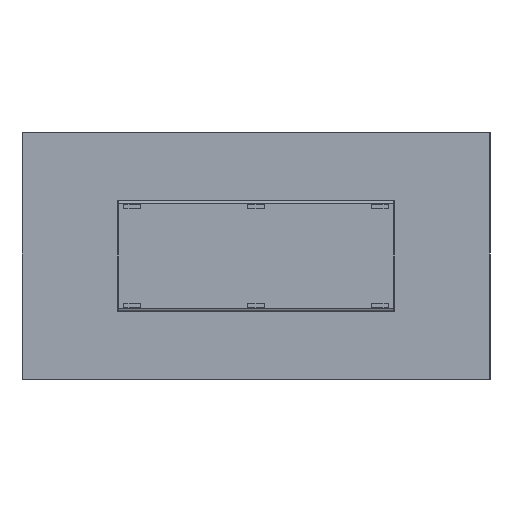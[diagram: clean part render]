
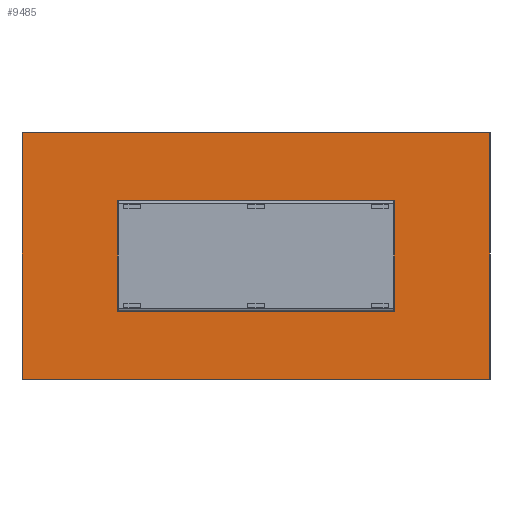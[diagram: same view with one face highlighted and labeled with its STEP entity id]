
A CAD part, front view. The second image highlights one B-rep face of the part: STEP entity #9485.
In plain terms, the highlighted planar face has unit normal (0, -1, 0).
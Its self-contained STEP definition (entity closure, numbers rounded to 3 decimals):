
#9080=CARTESIAN_POINT('',(-849.0,723.,647.));
#9081=VERTEX_POINT('',#9080);
#9098=CARTESIAN_POINT('',(-849.,723.,-247.));
#9099=VERTEX_POINT('',#9098);
#9106=CARTESIAN_POINT('',(-849.,723.,-247.));
#9107=DIRECTION('',(0.0,0.0,1.0));
#9108=VECTOR('',#9107,894.);
#9109=LINE('',#9106,#9108);
#9110=EDGE_CURVE('',#9099,#9081,#9109,.T.);
#9122=CARTESIAN_POINT('',(-847.0,723.,-249.));
#9123=VERTEX_POINT('',#9122);
#9130=CARTESIAN_POINT('',(-847.0,723.,-247.));
#9131=DIRECTION('',(0.,1.0,0.));
#9132=DIRECTION('',(-0.707,0.,-0.707));
#9133=AXIS2_PLACEMENT_3D('',#9130,#9131,#9132);
#9134=CIRCLE('',#9133,2.);
#9135=EDGE_CURVE('',#9123,#9099,#9134,.T.);
#9155=CARTESIAN_POINT('',(847.,723.,-249.));
#9156=VERTEX_POINT('',#9155);
#9163=CARTESIAN_POINT('',(847.0,723.,-249.));
#9164=DIRECTION('',(-1.0,0.0,0.0));
#9165=VECTOR('',#9164,1694.0);
#9166=LINE('',#9163,#9165);
#9167=EDGE_CURVE('',#9156,#9123,#9166,.T.);
#9186=CARTESIAN_POINT('',(849.,723.,-247.));
#9187=VERTEX_POINT('',#9186);
#9194=CARTESIAN_POINT('',(847.,723.,-247.));
#9195=DIRECTION('',(0.,1.0,0.));
#9196=DIRECTION('',(0.707,0.,-0.707));
#9197=AXIS2_PLACEMENT_3D('',#9194,#9195,#9196);
#9198=CIRCLE('',#9197,2.);
#9199=EDGE_CURVE('',#9187,#9156,#9198,.T.);
#9219=CARTESIAN_POINT('',(849.0,723.,647.0));
#9220=VERTEX_POINT('',#9219);
#9227=CARTESIAN_POINT('',(849.0,723.,647.0));
#9228=DIRECTION('',(0.0,0.0,-1.0));
#9229=VECTOR('',#9228,894.0);
#9230=LINE('',#9227,#9229);
#9231=EDGE_CURVE('',#9220,#9187,#9230,.T.);
#9250=CARTESIAN_POINT('',(847.0,723.,649.0));
#9251=VERTEX_POINT('',#9250);
#9258=CARTESIAN_POINT('',(847.0,723.,647.));
#9259=DIRECTION('',(0.,1.0,0.));
#9260=DIRECTION('',(0.707,0.,0.707));
#9261=AXIS2_PLACEMENT_3D('',#9258,#9259,#9260);
#9262=CIRCLE('',#9261,2.);
#9263=EDGE_CURVE('',#9251,#9220,#9262,.T.);
#9283=CARTESIAN_POINT('',(-847.,723.,649.));
#9284=VERTEX_POINT('',#9283);
#9291=CARTESIAN_POINT('',(-847.0,723.,649.));
#9292=DIRECTION('',(1.0,0.0,0.0));
#9293=VECTOR('',#9292,1694.0);
#9294=LINE('',#9291,#9293);
#9295=EDGE_CURVE('',#9284,#9251,#9294,.T.);
#9321=CARTESIAN_POINT('',(-847.,723.,647.));
#9322=DIRECTION('',(0.,1.0,0.));
#9323=DIRECTION('',(-0.707,0.,0.707));
#9324=AXIS2_PLACEMENT_3D('',#9321,#9322,#9323);
#9325=CIRCLE('',#9324,2.);
#9326=EDGE_CURVE('',#9081,#9284,#9325,.T.);
#9436=CARTESIAN_POINT('',(0.,723.,200.));
#9437=DIRECTION('',(0.0,1.0,0.0));
#9438=DIRECTION('',(0.0,0.0,1.0));
#9439=AXIS2_PLACEMENT_3D('',#9436,#9437,#9438);
#9440=PLANE('',#9439);
#9441=ORIENTED_EDGE('',*,*,#9110,.F.);
#9442=ORIENTED_EDGE('',*,*,#9135,.F.);
#9443=ORIENTED_EDGE('',*,*,#9167,.F.);
#9444=ORIENTED_EDGE('',*,*,#9199,.F.);
#9445=ORIENTED_EDGE('',*,*,#9231,.F.);
#9446=ORIENTED_EDGE('',*,*,#9263,.F.);
#9447=ORIENTED_EDGE('',*,*,#9295,.F.);
#9448=ORIENTED_EDGE('',*,*,#9326,.F.);
#9449=EDGE_LOOP('',(#9441,#9442,#9443,#9444,#9445,#9446,#9447,#9448));
#9450=FACE_OUTER_BOUND('',#9449,.T.);
#9451=CARTESIAN_POINT('',(-499.,723.,1.));
#9452=VERTEX_POINT('',#9451);
#9453=CARTESIAN_POINT('',(-499.0,723.,399.0));
#9454=VERTEX_POINT('',#9453);
#9455=CARTESIAN_POINT('',(-499.,723.,1.));
#9456=DIRECTION('',(0.0,0.0,1.0));
#9457=VECTOR('',#9456,398.);
#9458=LINE('',#9455,#9457);
#9459=EDGE_CURVE('',#9452,#9454,#9458,.T.);
#9460=ORIENTED_EDGE('',*,*,#9459,.T.);
#9461=CARTESIAN_POINT('',(499.,723.,399.));
#9462=VERTEX_POINT('',#9461);
#9463=CARTESIAN_POINT('',(-499.0,723.,399.0));
#9464=DIRECTION('',(1.0,0.0,0.0));
#9465=VECTOR('',#9464,998.);
#9466=LINE('',#9463,#9465);
#9467=EDGE_CURVE('',#9454,#9462,#9466,.T.);
#9468=ORIENTED_EDGE('',*,*,#9467,.T.);
#9469=CARTESIAN_POINT('',(499.,723.,1.));
#9470=VERTEX_POINT('',#9469);
#9471=CARTESIAN_POINT('',(499.0,723.,399.));
#9472=DIRECTION('',(0.0,0.0,-1.0));
#9473=VECTOR('',#9472,398.);
#9474=LINE('',#9471,#9473);
#9475=EDGE_CURVE('',#9462,#9470,#9474,.T.);
#9476=ORIENTED_EDGE('',*,*,#9475,.T.);
#9477=CARTESIAN_POINT('',(499.,723.,1.));
#9478=DIRECTION('',(-1.0,0.0,0.0));
#9479=VECTOR('',#9478,998.);
#9480=LINE('',#9477,#9479);
#9481=EDGE_CURVE('',#9470,#9452,#9480,.T.);
#9482=ORIENTED_EDGE('',*,*,#9481,.T.);
#9483=EDGE_LOOP('',(#9460,#9468,#9476,#9482));
#9484=FACE_BOUND('',#9483,.T.);
#9485=ADVANCED_FACE('',(#9450,#9484),#9440,.F.);
